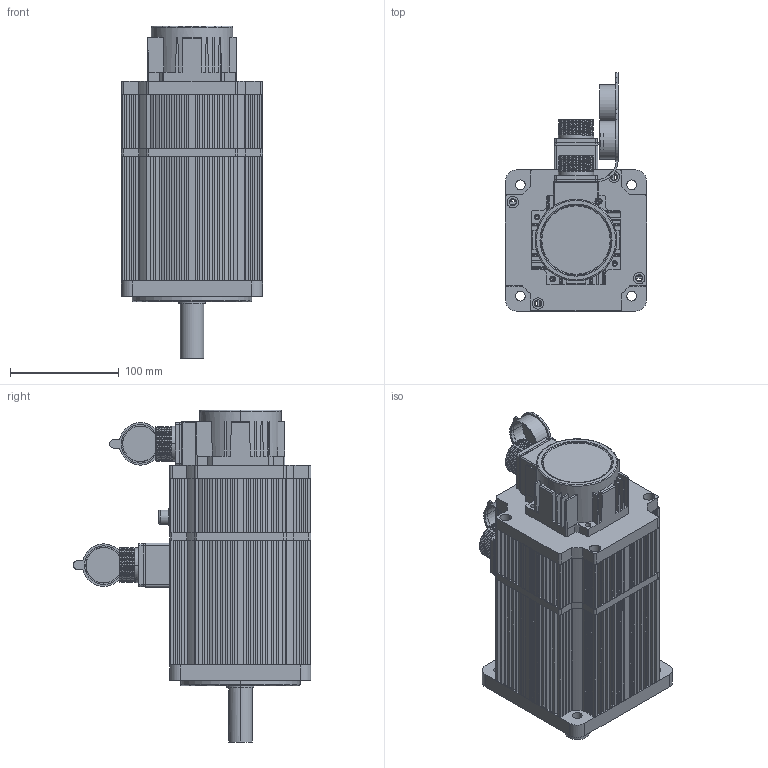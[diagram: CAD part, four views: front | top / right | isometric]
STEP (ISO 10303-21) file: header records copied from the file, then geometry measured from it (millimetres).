
FILE_DESCRIPTION (( 'STEP AP203' ), '1' );
FILE_NAME ('130 7.7N.M抱闸装配体.STEP', '2018-11-12T01:24:35', ( '微软用户' ), ( '微软中国' ), 'SwSTEP 2.0', 'SolidWorks 2016', '' );
FILE_SCHEMA (( 'CONFIG_CONTROL_DESIGN' ));
Length unit declared in the file: millimetre
Products named in the file (19): 130惕掅儂褲; 粣創6305; 15郋瑤脣釱; 130 7.7N.M粣; 粣創6205; 惕掅脣芛; 130ヶ裔; 130  7.7N.M惕掅蚾饜极; 130儂褲; 130綴裔; 4郋瑤脣; 130惕掅綴裔; 瑤脣價釱; 晤鎢ん; 瑤脣々菜; 晤鎢ん欶; 130-4郋瑤脣釱; 130蛌赽; 15郋瑤脣
Assembly tree (19 placements, depth 3):
  130  7.7N.M惕掅蚾饜极
    粣創6305
    粣創6205
    130ヶ裔
    130綴裔
    130惕掅綴裔
    晤鎢ん
    晤鎢ん欶
    130蛌赽
    130惕掅儂褲
    130 7.7N.M粣
    130儂褲
    130-4郋瑤脣釱
      4郋瑤脣
      瑤脣價釱
      瑤脣々菜
    15郋瑤脣釱
      15郋瑤脣
      瑤脣々菜
    惕掅脣芛
Bounding box: 130 x 219.29 x 306 mm (x, y, z)
Volume: 1480579.6 mm3; surface area: 623535.6 mm2
Topology: 18 solids, 20 shells, 2077 faces, 5575 edges, 3617 vertices
Faces by surface type: plane 1076, cylinder 845, torus 73, cone 39, sphere 36, bspline 8
Entity records: 68883 total; most frequent: CARTESIAN_POINT 15281, DIRECTION 10877, ORIENTED_EDGE 10734, EDGE_CURVE 5367, AXIS2_PLACEMENT_3D 3746, VERTEX_POINT 3517, LINE 3385, VECTOR 3385
